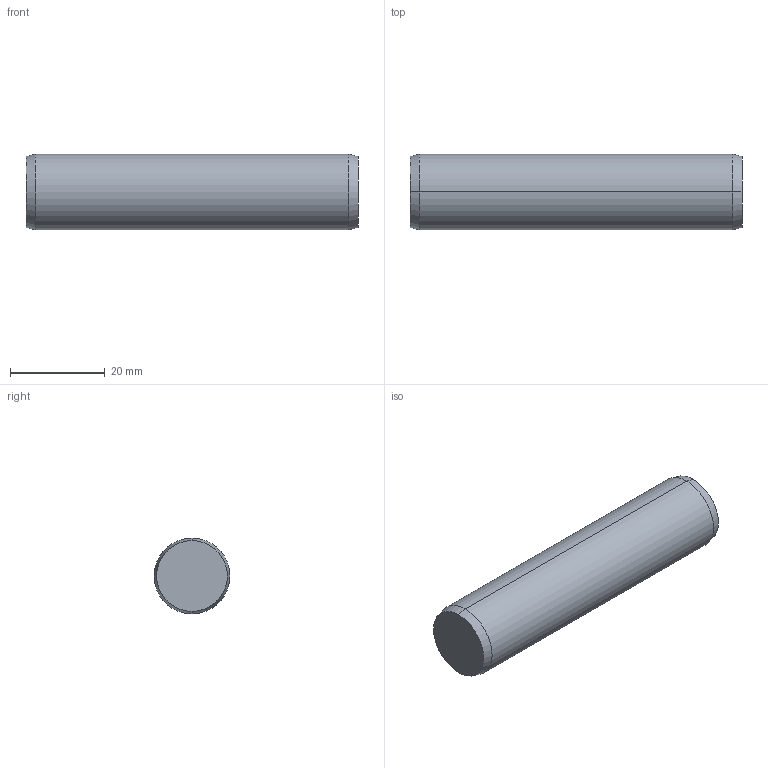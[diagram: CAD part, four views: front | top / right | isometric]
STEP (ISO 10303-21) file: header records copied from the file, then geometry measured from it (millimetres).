
FILE_DESCRIPTION (( 'STEP AP203' ), '1' );
FILE_NAME ('P1206.160-070.step', '2017-06-14T08:43:31', ( 'User' ), ( '' ), 'SwSTEP 2.0', 'SolidWorks 2009', '' );
FILE_SCHEMA (( 'CONFIG_CONTROL_DESIGN' ));
Length unit declared in the file: millimetre
Products named in the file (1): P1206.160-070
Bounding box: 70 x 16 x 16 mm (x, y, z)
Volume: 14021.7 mm3; surface area: 3868.8 mm2
Topology: 1 solids, 1 shells, 8 faces, 14 edges, 8 vertices
Faces by surface type: cone 4, cylinder 2, plane 2
Entity records: 271 total; most frequent: DIRECTION 40, CARTESIAN_POINT 31, ORIENTED_EDGE 28, AXIS2_PLACEMENT_3D 17, EDGE_CURVE 14, PERSON_AND_ORGANIZATION 8, CIRCLE 8, FACE_OUTER_BOUND 8
